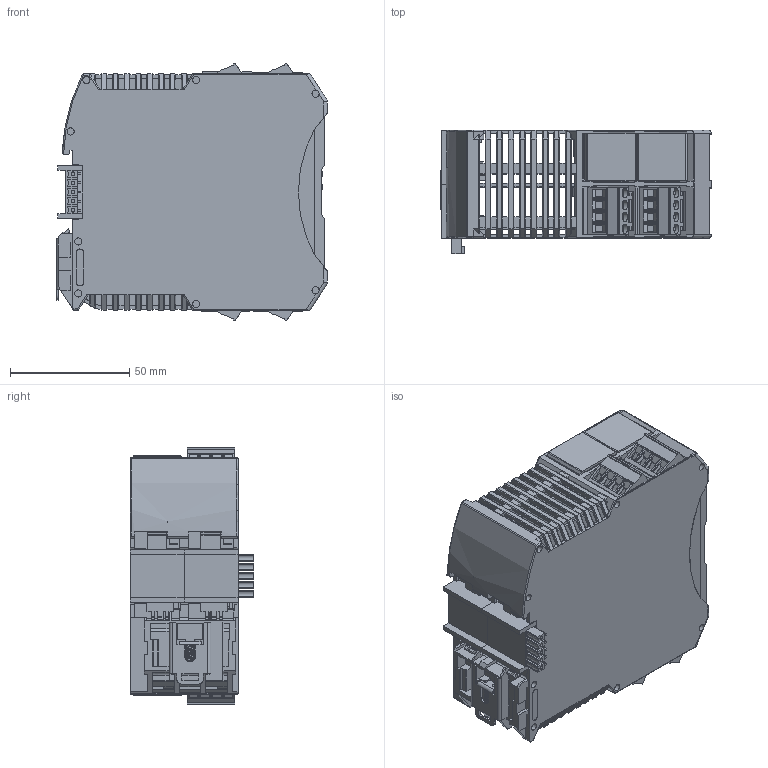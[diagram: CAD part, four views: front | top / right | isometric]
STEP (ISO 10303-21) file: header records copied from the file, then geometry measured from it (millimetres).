
FILE_DESCRIPTION(('STEP AP214'), '1');
FILE_NAME('沓劌錪', '', ('UNSPECIFIED'), ('UNSPECIFIED'), 'C3D Converter', 'C3D Toolkit', '');
FILE_SCHEMA(('AUTOMOTIVE_DESIGN { 1 0 10303 214 3 1 1}'));
Length unit declared in the file: millimetre
Bounding box: 113.65 x 51.8 x 108 mm (x, y, z)
Volume: 100667.3 mm3; surface area: 136741.6 mm2
Topology: 7 solids, 8 shells, 6471 faces, 18489 edges, 12067 vertices
Faces by surface type: plane 4667, cylinder 1031, extrusion 711, cone 52, bspline 6, torus 4
Full cylindrical faces by diameter (mm): 1.35 x1, 1.4 x21, 1.6 x37, 2.2 x16, 2.8 x33, 3 x16, 3.796 x16, 4 x16, 4.5 x1
Entity records: 272245 total; most frequent: CARTESIAN_POINT 54657, ORIENTED_EDGE 36618, DIRECTION 30447, EDGE_CURVE 18309, VECTOR 14827, LINE 14116, VERTEX_POINT 12067, AXIS2_PLACEMENT_3D 7810
